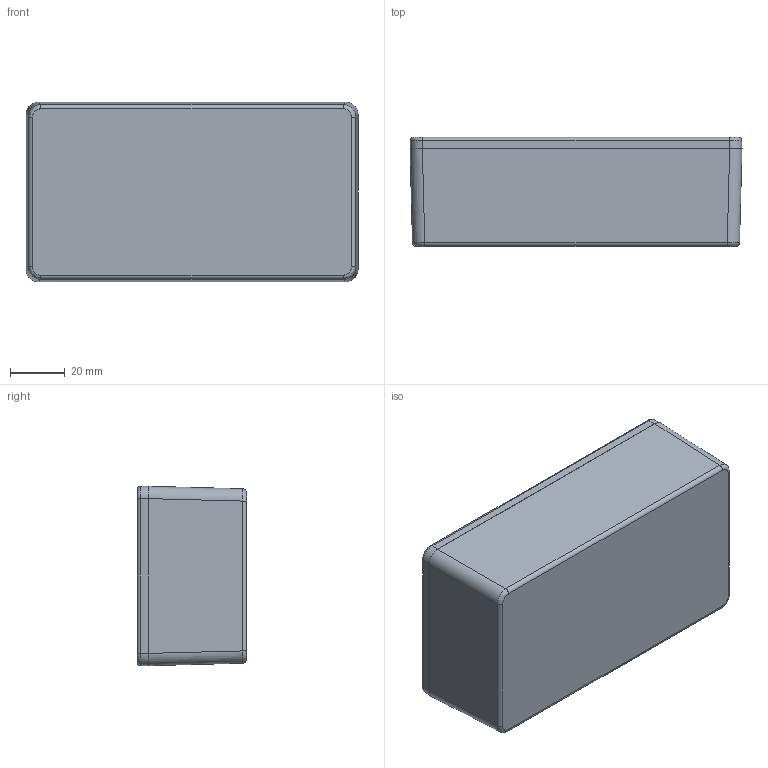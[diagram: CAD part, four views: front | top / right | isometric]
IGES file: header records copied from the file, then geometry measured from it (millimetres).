
Global section: file name: 1590N1.iam; native system: Autodesk Inventor 2014; preprocessor: unknown; author: mbeerman; date: 20140728.134831; units: millimetre
Bounding box: 121.2 x 39.8 x 65.5 mm (x, y, z)
Volume: 63960 mm3; surface area: 59699.3 mm2
Topology: 6 solids, 6 shells, 353 faces, 923 edges, 606 vertices
Faces by surface type: plane 187, revolution 70, bspline 56, cylinder 27, cone 13
Full cylindrical faces by diameter (mm): 3.378 x4
